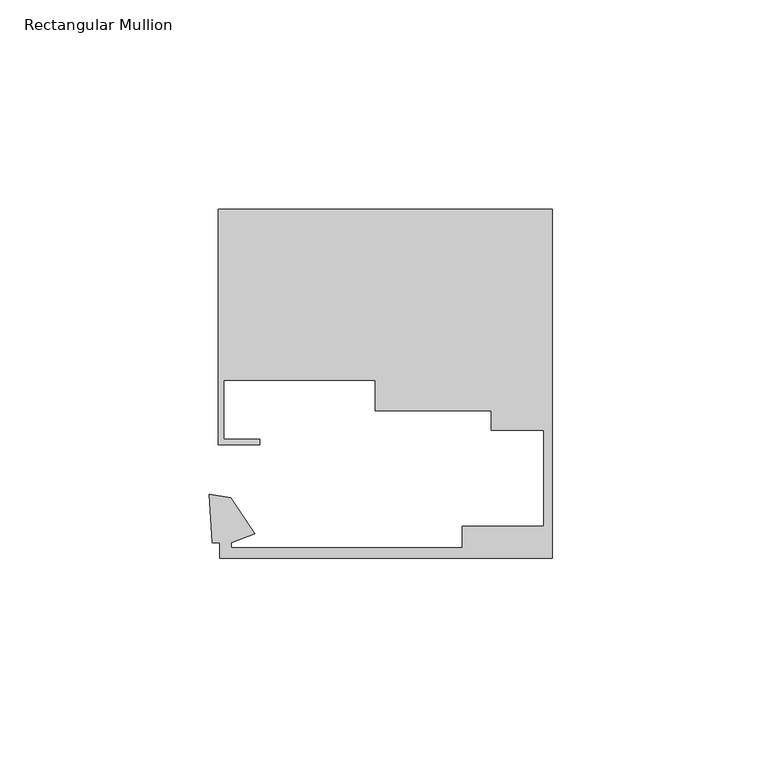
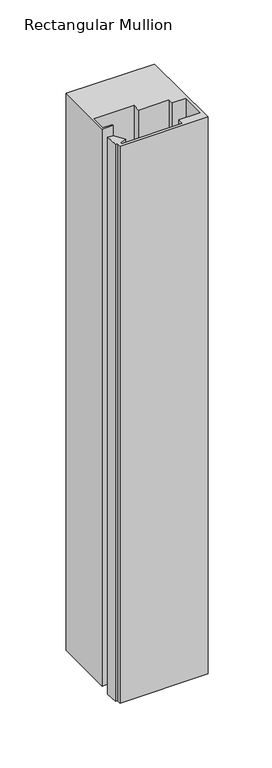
"""IFC4 building model written with IfcOpenShell, lengths in millimetres: member geometry, Rectangular Mullion : Danpal_NM_End-Mullion_B1."""

from ifc_helpers import new_model, si_unit, frame, origin, place, context, project, spatial, polyline, outline, extrude, source, transform, mapped, element, save


def rectangular_mullion_f4b86b5b(model_context):
    return source(origin(), model_context, "Body", "SweptSolid", [
        extrude(outline(polyline([(0.0, 68.4940825), (0.0, -14.8051514), (-79.3474874, -14.8003189), (-79.3474874, -11.1413992), (-81.1597999, -11.1413992), (-81.8779002, 0.484903), (-76.7540801, -0.319325), (-71.0577359, -9.0180613), (-76.6478166, -11.1168176), (-76.6478166, -12.3181946), (-21.5478166, -12.3181946), (-21.5478166, -7.1181946), (-2.0000001, -7.1181946), (-2.0000001, 15.7940824), (-14.6000003, 15.7940824), (-14.6000003, 20.3492381), (-42.2684147, 20.3894746), (-42.2578709, 27.6399085), (-78.4582695, 27.6399085), (-78.4582695, 13.5916994), (-69.8282946, 13.5916994), (-69.8282946, 12.280939), (-79.7784606, 12.280939), (-79.7784606, 68.4940825), (0.0, 68.4940825)])), frame((0.0, 0.0, -531.2), z_axis=(0.0, 0.0, 1.0), x_axis=(1.0, 0.0, 0.0)), (0.0, 0.0, 1.0), 531.2),
    ])


if __name__ == "__main__":
    model = new_model("IFC4")
    model_context = context("Model", 3, world=origin())
    ifc_project = project(units=[si_unit("LENGTHUNIT", "METRE", prefix="MILLI")], contexts=[model_context])
    site = spatial("IfcSite", under=ifc_project)
    building = spatial("IfcBuilding", under=site)
    placement = place(None, origin())
    rectangular_mullion_shape = rectangular_mullion_f4b86b5b(model_context)
    element("IfcMember", 1, ObjectType="Rectangular Mullion : Danpal_NM_End-Mullion_B1", at=placement, inside=building, context=model_context, shape_type="MappedRepresentation", body=[
        mapped(rectangular_mullion_shape, transform((0.0, 0.0, 0.0), x_axis=(1.0, 0.0, 0.0), y_axis=(0.0, 1.0, 0.0), z_axis=(0.0, 0.0, 1.0))),
    ])
    save(model, "model.ifc")
